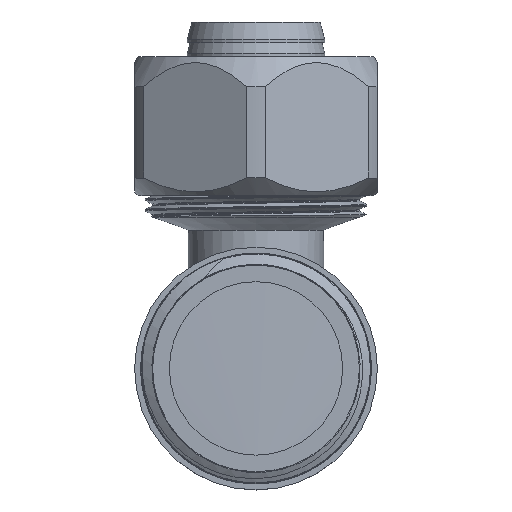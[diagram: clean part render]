
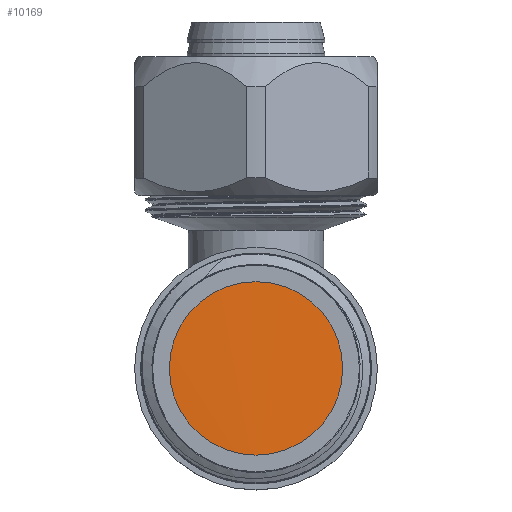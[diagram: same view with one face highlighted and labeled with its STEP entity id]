
A CAD part, top view. The second image highlights one B-rep face of the part: STEP entity #10169.
In plain terms, the highlighted cylindrical face has radius 16.62 mm (diameter 33.24 mm), a full revolution.
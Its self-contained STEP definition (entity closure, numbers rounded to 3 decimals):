
#107=B_SPLINE_CURVE_WITH_KNOTS('',3,(#13910,#13911,#13912,#13913,#13914,
#13915,#13916,#13917,#13918,#13919,#13920,#13921,#13922,#13923,#13924,#13925,
#13926),.UNSPECIFIED.,.F.,.F.,(4,1,1,1,1,1,1,1,1,1,1,1,1,1,4),(31.416,
31.574,32.066,32.558,33.05,33.542,
34.034,34.526,35.018,35.51,36.003,
36.495,36.987,37.479,37.699),
 .UNSPECIFIED.);
#1287=CYLINDRICAL_SURFACE('',#10890,16.62);
#1449=FACE_OUTER_BOUND('',#2041,.T.);
#2041=EDGE_LOOP('',(#7299,#7300,#7301));
#2731=LINE('',#13837,#3387);
#2733=LINE('',#13909,#3389);
#3387=VECTOR('',#11752,16.62);
#3389=VECTOR('',#11760,16.62);
#4317=VERTEX_POINT('',#13835);
#4318=VERTEX_POINT('',#13836);
#4322=VERTEX_POINT('',#13908);
#5470=EDGE_CURVE('',#4317,#4318,#2731,.T.);
#5476=EDGE_CURVE('',#4322,#4318,#2733,.T.);
#5477=EDGE_CURVE('',#4322,#4317,#107,.T.);
#7299=ORIENTED_EDGE('',*,*,#5470,.T.);
#7300=ORIENTED_EDGE('',*,*,#5476,.F.);
#7301=ORIENTED_EDGE('',*,*,#5477,.T.);
#10169=ADVANCED_FACE('',(#1449),#1287,.T.);
#10890=AXIS2_PLACEMENT_3D('',#13907,#11758,#11759);
#11752=DIRECTION('',(0.,0.,1.));
#11758=DIRECTION('center_axis',(0.,0.,1.));
#11759=DIRECTION('ref_axis',(0.,1.,0.));
#11760=DIRECTION('',(0.,0.,-1.));
#13835=CARTESIAN_POINT('',(0.,-49.62,25.64));
#13836=CARTESIAN_POINT('',(0.,-49.62,27.932));
#13837=CARTESIAN_POINT('',(0.,-49.62,32.25));
#13907=CARTESIAN_POINT('Origin',(0.,-33.,32.25));
#13908=CARTESIAN_POINT('',(0.,-49.62,27.952));
#13909=CARTESIAN_POINT('',(0.,-49.62,32.25));
#13910=CARTESIAN_POINT('Ctrl Pts',(0.,-49.619,
27.952));
#13911=CARTESIAN_POINT('Ctrl Pts',(-0.874,-49.62,
27.932));
#13912=CARTESIAN_POINT('Ctrl Pts',(-4.475,-49.341,
27.853));
#13913=CARTESIAN_POINT('Ctrl Pts',(-10.471,-46.778,
27.713));
#13914=CARTESIAN_POINT('Ctrl Pts',(-15.739,-40.196,
27.532));
#13915=CARTESIAN_POINT('Ctrl Pts',(-17.271,-31.906,
27.351));
#13916=CARTESIAN_POINT('Ctrl Pts',(-14.705,-23.875,27.17));
#13917=CARTESIAN_POINT('Ctrl Pts',(-8.649,-18.01,
26.988));
#13918=CARTESIAN_POINT('Ctrl Pts',(-0.54,-15.703,
26.807));
#13919=CARTESIAN_POINT('Ctrl Pts',(7.696,-17.5,26.626));
#13920=CARTESIAN_POINT('Ctrl Pts',(14.107,-22.975,26.445));
#13921=CARTESIAN_POINT('Ctrl Pts',(17.169,-30.83,26.264));
#13922=CARTESIAN_POINT('Ctrl Pts',(16.157,-39.199,26.083));
#13923=CARTESIAN_POINT('Ctrl Pts',(11.311,-46.098,25.902));
#13924=CARTESIAN_POINT('Ctrl Pts',(5.167,-49.19,25.755));
#13925=CARTESIAN_POINT('Ctrl Pts',(1.22,-49.619,25.667));
#13926=CARTESIAN_POINT('Ctrl Pts',(0.,-49.619,
25.64));
